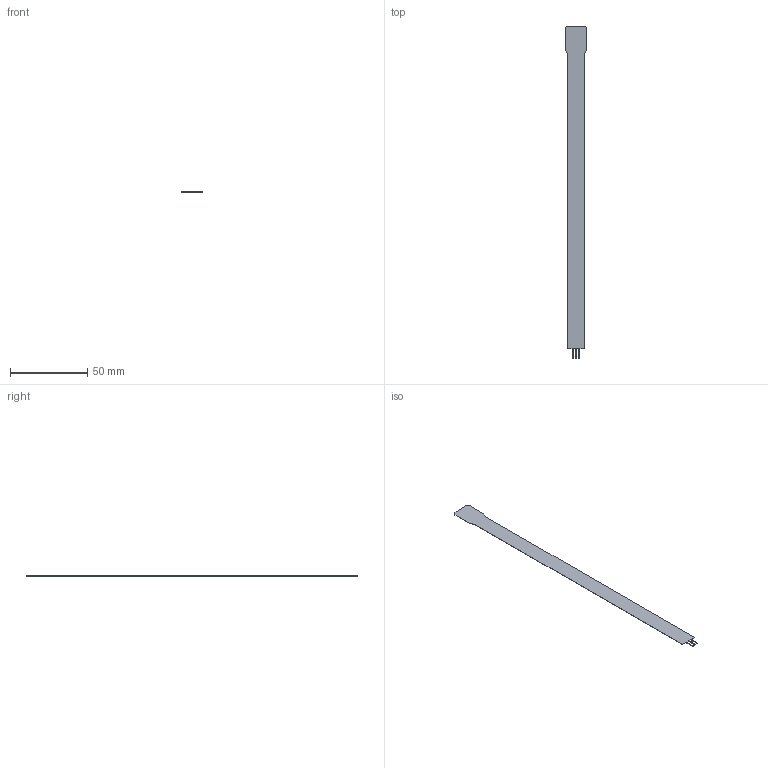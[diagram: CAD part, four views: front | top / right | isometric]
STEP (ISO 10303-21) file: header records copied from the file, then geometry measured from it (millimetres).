
FILE_DESCRIPTION(/* description */ ('Alibre Inc.'),/* implementation_level */ '2;1');
FILE_NAME(/* name */ 'export0',/* time_stamp */ '2013-07-17T13:06:51-06:00',/* author */ (''),/* organization */ (''),/* preprocessor_version */ 'ST-DEVELOPER v14',/* originating_system */ 'Alibre',/* authorisation */ '');
FILE_SCHEMA (('ALIBRE_SCHEMA','CONFIG_CONTROL_DESIGN'));
Length unit declared in the file: centimetre
Products named in the file (1): ID_1
Bounding box: 14 x 214.5 x 0.2 mm (x, y, z)
Volume: 470.4 mm3; surface area: 4799.5 mm2
Topology: 1 solids, 1 shells, 24 faces, 66 edges, 44 vertices
Faces by surface type: plane 22, cylinder 2
Entity records: 1914 total; most frequent: CARTESIAN_POINT 246, DIRECTION 174, VECTOR 133, ORIENTED_EDGE 132, CONSTRAINTPAIRUV 125, LINE 99, REFERENCEDEPENDENTUV 97, EDGE_CURVE 66
